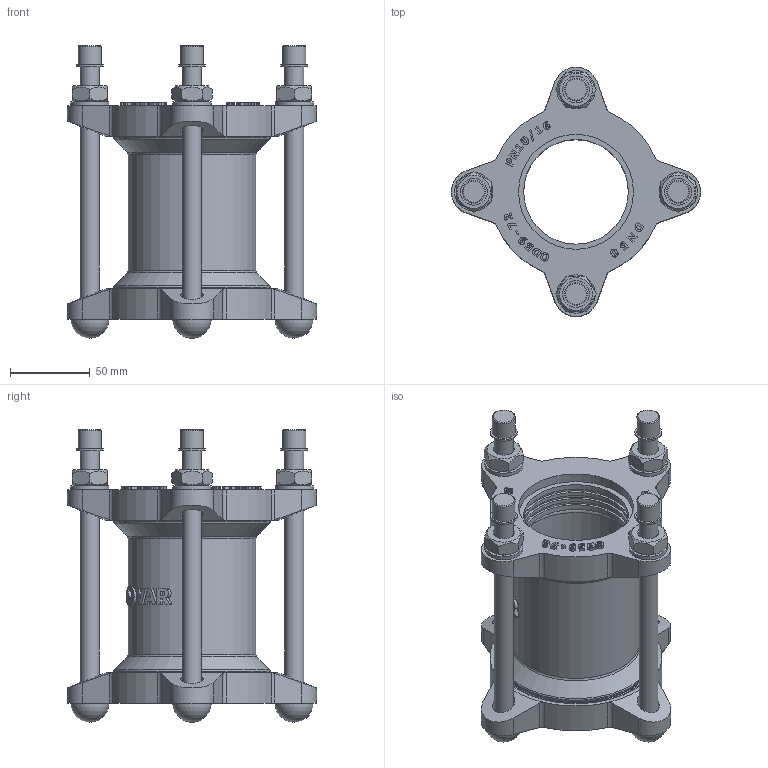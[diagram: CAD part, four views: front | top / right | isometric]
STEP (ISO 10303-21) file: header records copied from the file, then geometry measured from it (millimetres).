
FILE_DESCRIPTION(('STEP AP203'), '1');
FILE_NAME('Cîåäèíèòåëüíàÿ ìóôòà äëÿ æåñòêèõ òðóá', '', ('UNSPECIFIED'), ('UNSPECIFIED'), 'C3D Converter', 'C3D Toolkit', '');
FILE_SCHEMA(('CONFIG_CONTROL_DESIGN'));
Length unit declared in the file: millimetre
Assembly tree (21 placements, depth 2):
  (unnamed)
    (unnamed)
    (unnamed)  x4
    (unnamed)  x4
    (unnamed)  x4
    (unnamed)  x4
    (unnamed)
    (unnamed)
    (unnamed)  x2
Bounding box: 156 x 156 x 183.2 mm (x, y, z)
Volume: 501219 mm3; surface area: 203078.8 mm2
Topology: 25 solids, 25 shells, 714 faces, 1780 edges, 1168 vertices
Faces by surface type: extrusion 282, plane 267, cylinder 105, cone 34, torus 22, sphere 4
Full cylindrical faces by diameter (mm): 12 x12, 12.253 x1, 13 x4, 14 x8, 14.4 x4, 16.8 x4, 24 x4, 65.5 x8, 68.75 x6, 72 x3, 76 x2, 80 x3, 98 x2, 100 x4
Entity records: 28047 total; most frequent: CARTESIAN_POINT 10138, ORIENTED_EDGE 3028, DIRECTION 1992, EDGE_CURVE 1514, VERTEX_POINT 1038, VECTOR 976, B_SPLINE_CURVE_WITH_KNOTS 910, EDGE_LOOP 746
